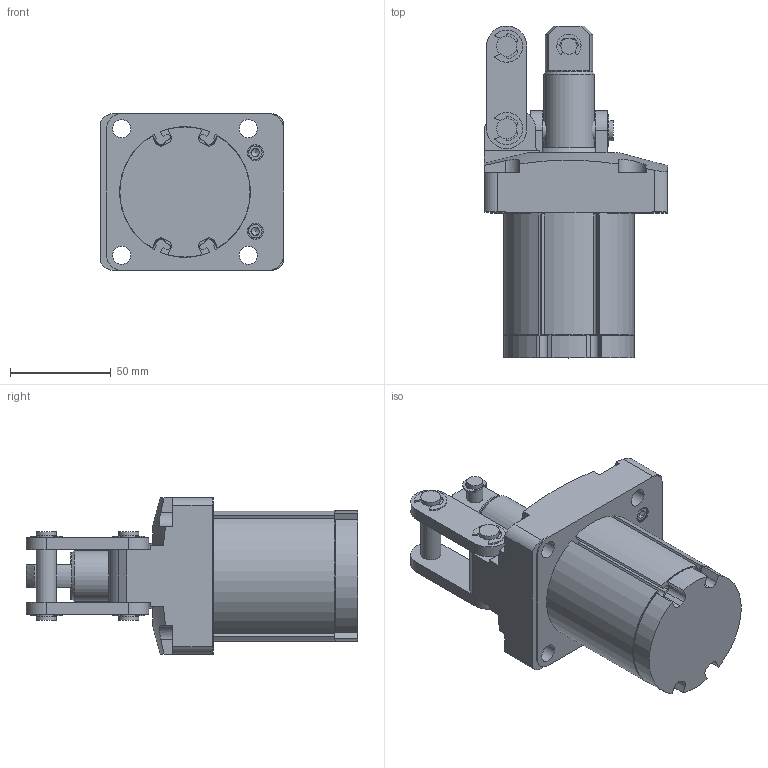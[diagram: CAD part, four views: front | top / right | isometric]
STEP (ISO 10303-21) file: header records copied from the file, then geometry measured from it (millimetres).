
FILE_DESCRIPTION( ( '' ), '1' );
FILE_NAME( 'W:/Catalogue/JSS/jss40-35/jss40-35.stp', '2008-05-26T04:20:21', ( '機械事業部産業機器グループ' ), ( '豊和工業株式会社' ), 'XStep 1.0', ' ', ' ' );
FILE_SCHEMA( ( 'CONFIG_CONTROL_DESIGN' ) );
Length unit declared in the file: millimetre
Products named in the file (7): Assem1; 1; 2; 3; 4; 5; 6
Bounding box: 91 x 165 x 78 mm (x, y, z)
Volume: 841016.3 mm3; surface area: 170042.6 mm2
Topology: 14 solids, 16 shells, 794 faces, 2138 edges, 1402 vertices
Faces by surface type: plane 462, cylinder 280, cone 46, torus 6
Full cylindrical faces by diameter (mm): 6 x4, 8 x20, 9 x8, 10 x14, 11 x4, 23.5 x2, 25 x4, 27 x2, 32 x2, 37 x4, 40 x4
Entity records: 12325 total; most frequent: CARTESIAN_POINT 2479, DIRECTION 2051, ORIENTED_EDGE 1900, EDGE_CURVE 950, AXIS2_PLACEMENT_3D 754, VERTEX_POINT 652, LINE 543, VECTOR 543
